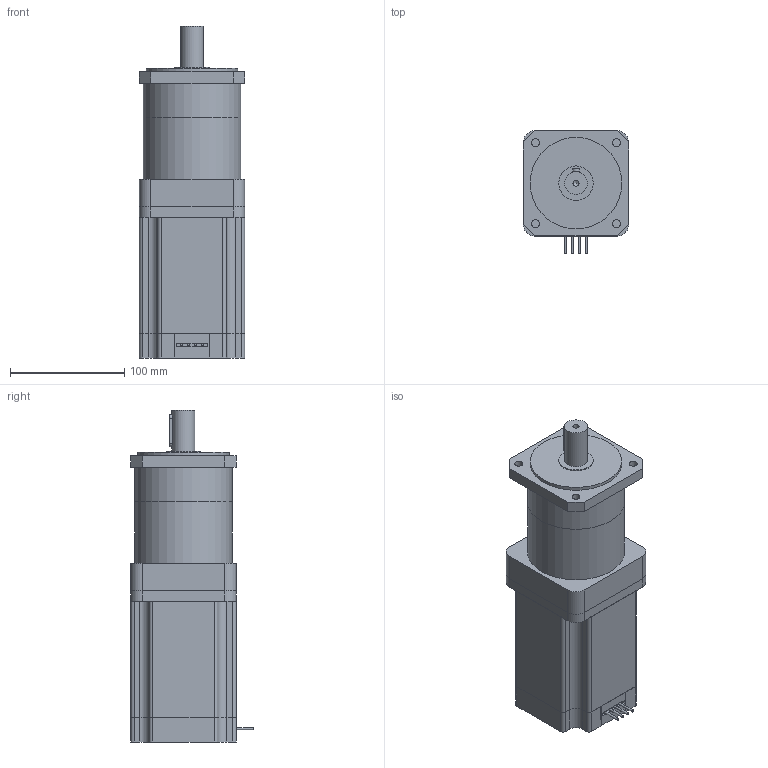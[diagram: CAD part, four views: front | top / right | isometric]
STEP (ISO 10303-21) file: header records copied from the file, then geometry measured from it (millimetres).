
FILE_DESCRIPTION(/* description */ (''),/* implementation_level */ '2;1');
FILE_NAME(/* name */ '86PG008-D60-04132.stp',/* time_stamp */ '2018-08-27T09:21:33+08:00',/* author */ (''),/* organization */ (''),/* preprocessor_version */ 'ST-DEVELOPER v11',/* originating_system */ 'SIEMENS UGS NX 6.0',/* authorisation */ '');
FILE_SCHEMA (('CONFIG_CONTROL_DESIGN'));
Length unit declared in the file: millimetre
Products named in the file (1): 86PG003-D60-04132
Bounding box: 92 x 107 x 290 mm (x, y, z)
Volume: 1781312.2 mm3; surface area: 175732.3 mm2
Topology: 6 solids, 6 shells, 121 faces, 301 edges, 202 vertices
Faces by surface type: plane 72, cylinder 48, cone 1
Full cylindrical faces by diameter (mm): 2 x4, 5.3 x1, 7 x4, 20 x1, 30 x1, 80 x1, 85 x2
Entity records: 3644 total; most frequent: CARTESIAN_POINT 659, DIRECTION 616, ORIENTED_EDGE 560, EDGE_CURVE 280, AXIS2_PLACEMENT_3D 216, VERTEX_POINT 197, LINE 184, VECTOR 184
